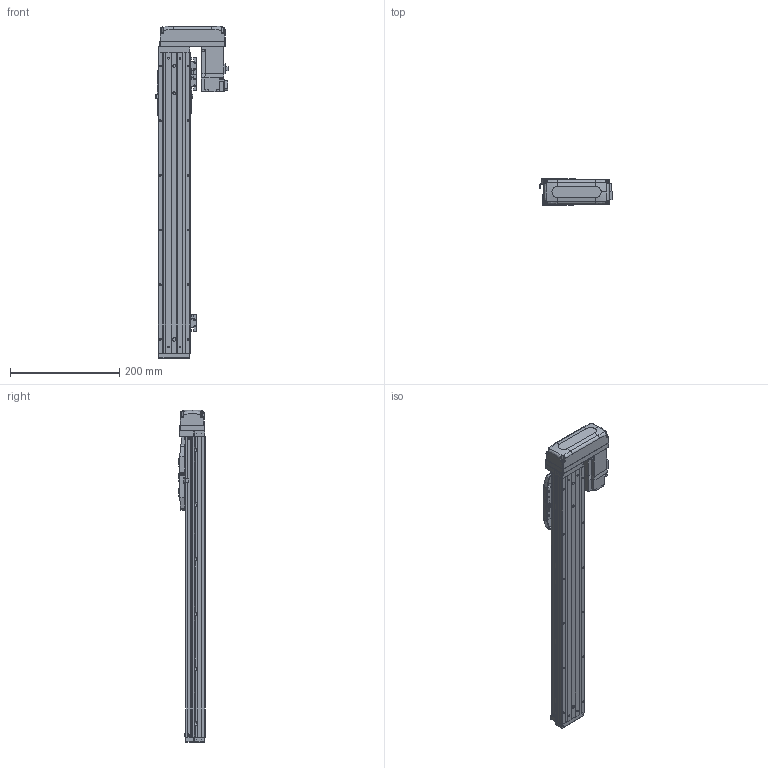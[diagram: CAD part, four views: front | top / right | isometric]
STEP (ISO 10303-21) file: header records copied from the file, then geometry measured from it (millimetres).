
FILE_DESCRIPTION (( 'STEP AP203' ), '1' );
FILE_NAME ('CTHA50-400-BL-M10-C4L.step', '2022-03-19T05:59:45', ( '微软用户' ), ( '微软中国' ), 'SwSTEP 2.0', 'SolidWorks 2020', '' );
FILE_SCHEMA (( 'CONFIG_CONTROL_DESIGN' ));
Length unit declared in the file: millimetre
Products named in the file (20): CTHA50-015-2_CTHA60-015-2; GBT 70.1-M3℅6; KTHA50-001_550; CTHA60-033; CTHA60-017; HG-KR13（三菱）; KTHA50-004; GBT 70.1-M3×15; GBT 70.1-M4×12; CTHA50-002; KTHA50-005; CTHA50-400-BL-M10-C4L; CTHA60-016; CTHA50-030; GB¨uT 70.2-M3¡Á6_M3¡Á6; CTHA60-021; CTHA50-031; EE_SX911P_R; GBT 70.3-M3℅6; GBT77-2000 M3×3
Assembly tree (60 placements, depth 2):
  CTHA50-400-BL-M10-C4L
    KTHA50-001_550
    KTHA50-004
    KTHA50-005
    GB¨uT 70.2-M3¡Á6_M3¡Á6  x10
    EE_SX911P_R  x3
    GBT77-2000 M3×3  x6
    GBT 70.1-M3℅6  x6
    CTHA60-017  x3
    GBT 70.1-M4×12  x10
    CTHA60-016  x2
    CTHA60-021  x2
    HG-KR13（三菱）
    CTHA50-002
    CTHA50-030  x2
    CTHA50-031
    GBT 70.3-M3℅6  x4
    CTHA50-015-2_CTHA60-015-2
    CTHA60-033
    GBT 70.1-M3×15  x4
Bounding box: 132.6 x 48 x 607 mm (x, y, z)
Volume: 1237265.6 mm3; surface area: 318617.6 mm2
Topology: 62 solids, 62 shells, 2513 faces, 5967 edges, 3654 vertices
Faces by surface type: plane 1422, cylinder 582, cone 351, torus 108, bspline 26, sphere 24
Entity records: 42685 total; most frequent: CARTESIAN_POINT 7883, DIRECTION 6645, ORIENTED_EDGE 6442, EDGE_CURVE 3221, VECTOR 2253, LINE 2253, AXIS2_PLACEMENT_3D 2196, VERTEX_POINT 2028
